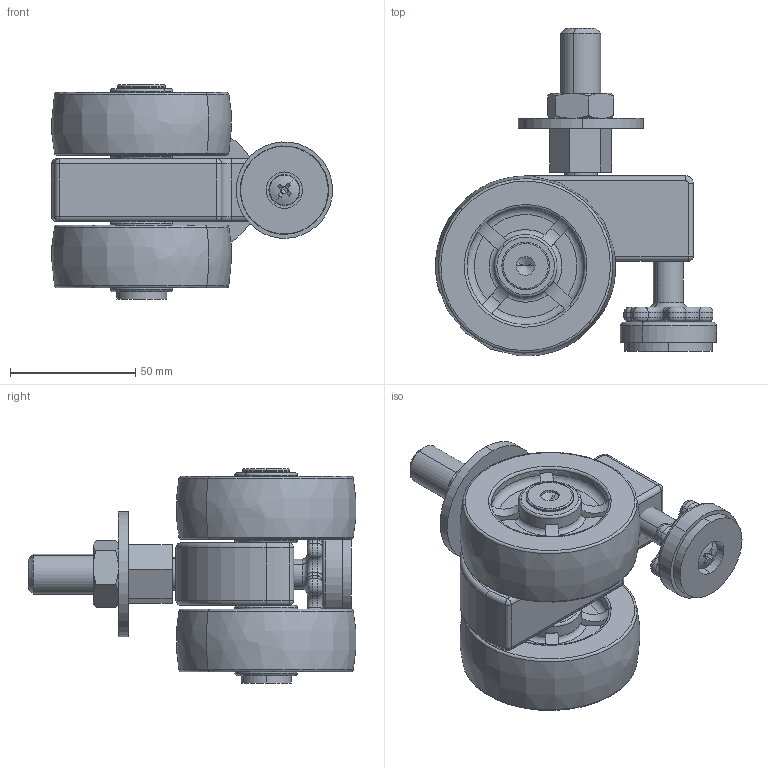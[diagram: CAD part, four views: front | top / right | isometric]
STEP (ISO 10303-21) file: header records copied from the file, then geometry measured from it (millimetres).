
FILE_DESCRIPTION (( 'STEP AP203' ), '1' );
FILE_NAME ('C03-2-800S.STEP', '2024-08-15T09:22:44', ( 'daohangxitong.com' ), ( 'daohangxitong.com' ), 'SwSTEP 2.0', 'SolidWorks 2020', '' );
FILE_SCHEMA (( 'CONFIG_CONTROL_DESIGN' ));
Length unit declared in the file: millimetre
Products named in the file (1): C03-2-800S
Bounding box: 112.22 x 130.81 x 85.5 mm (x, y, z)
Volume: 314943.9 mm3; surface area: 79073.2 mm2
Topology: 12 solids, 12 shells, 469 faces, 1119 edges, 676 vertices
Faces by surface type: plane 150, cylinder 139, torus 124, cone 32, bspline 14, sphere 10
Entity records: 15806 total; most frequent: CARTESIAN_POINT 4919, DIRECTION 2405, ORIENTED_EDGE 2208, EDGE_CURVE 1104, AXIS2_PLACEMENT_3D 1023, VERTEX_POINT 675, CIRCLE 567, EDGE_LOOP 507
